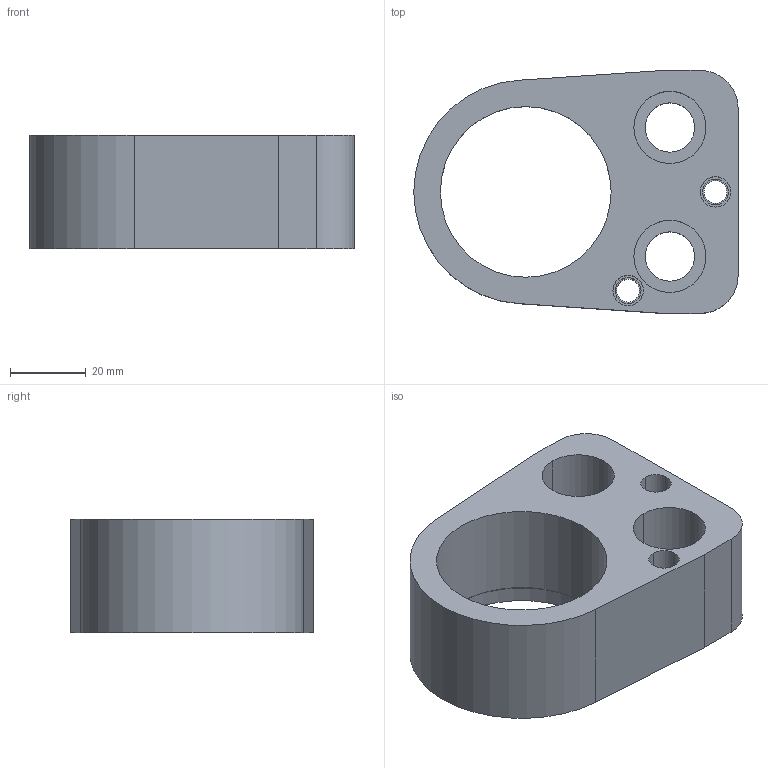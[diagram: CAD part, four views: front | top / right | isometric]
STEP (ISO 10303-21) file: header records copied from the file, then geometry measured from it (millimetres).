
FILE_DESCRIPTION(/* description */ (''),/* implementation_level */ '2;1');
FILE_NAME(/* name */ '3d_cp-an45_03578_r00.stp',/* time_stamp */ '2011-01-10T14:16:30+09:00',/* author */ ('MISUMI'),/* organization */ (''),/* preprocessor_version */ 'ST-DEVELOPER v11',/* originating_system */ 'UGS - NX 5.0',/* authorisation */ '');
FILE_SCHEMA (('CONFIG_CONTROL_DESIGN'));
Length unit declared in the file: millimetre
Products named in the file (1): 3d_cp-an45_03578_r00
Bounding box: 85.5 x 64 x 30 mm (x, y, z)
Volume: 80978.6 mm3; surface area: 22202 mm2
Topology: 1 solids, 1 shells, 43 faces, 100 edges, 66 vertices
Faces by surface type: cylinder 27, plane 14, cone 2
Entity records: 1360 total; most frequent: DIRECTION 244, CARTESIAN_POINT 210, ORIENTED_EDGE 200, EDGE_CURVE 100, AXIS2_PLACEMENT_3D 100, VERTEX_POINT 66, EDGE_LOOP 60, CIRCLE 56
